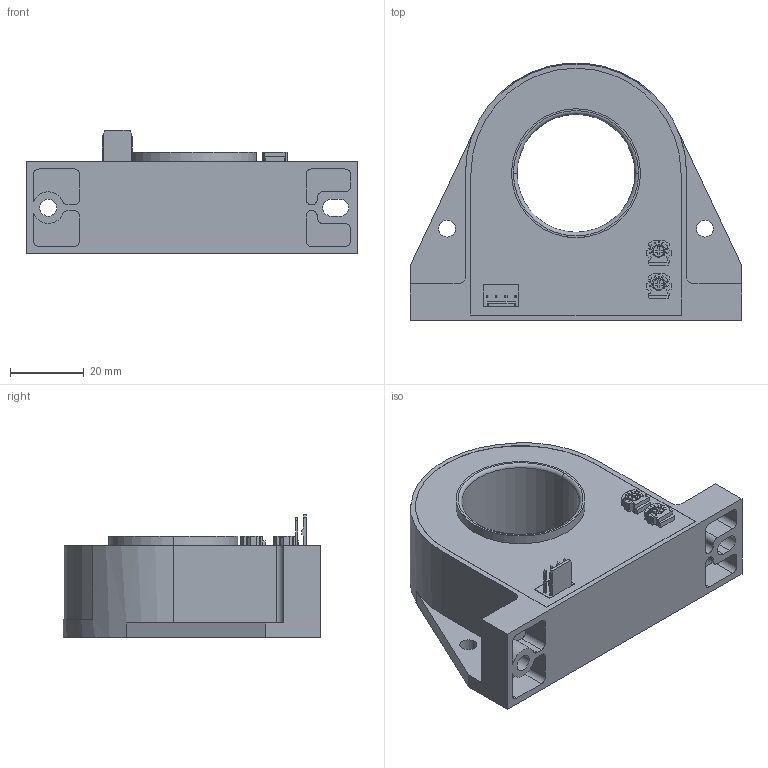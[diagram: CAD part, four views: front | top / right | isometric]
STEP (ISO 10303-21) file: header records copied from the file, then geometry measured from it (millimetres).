
FILE_DESCRIPTION(('Creo Elements/Direct Modeling STEP Export'),'2;1');
FILE_NAME('60.63.50.002.4_20171206.stp','2017-12-06T16:48:30',(''),(''),'PTC Creo Elements/Direct Modeling STEP processor for AP214 (Solid Model)','PTC Creo Elements/Direct Modeling 19.0E 27-Jun-2016 (C) Parametric Technology GmbH','');
FILE_SCHEMA(('AUTOMOTIVE_DESIGN { 1 0 10303 214 1 1 1 1 }'));
Length unit declared in the file: millimetre
Products named in the file (2): HTA-S-SP2
Assembly tree (1 placements, depth 2):
  HTA-S-SP2
    HTA-S-SP2
Bounding box: 90 x 69.9 x 33.5 mm (x, y, z)
Volume: 81693.9 mm3; surface area: 25574.9 mm2
Topology: 1 solids, 13 shells, 648 faces, 1641 edges, 1087 vertices
Faces by surface type: plane 530, cylinder 102, torus 16
Entity records: 24291 total; most frequent: CARTESIAN_POINT 3812, ORIENTED_EDGE 3282, DIRECTION 3020, EDGE_CURVE 1641, VECTOR 1362, LINE 1362, VERTEX_POINT 1087, AXIS2_PLACEMENT_3D 829
